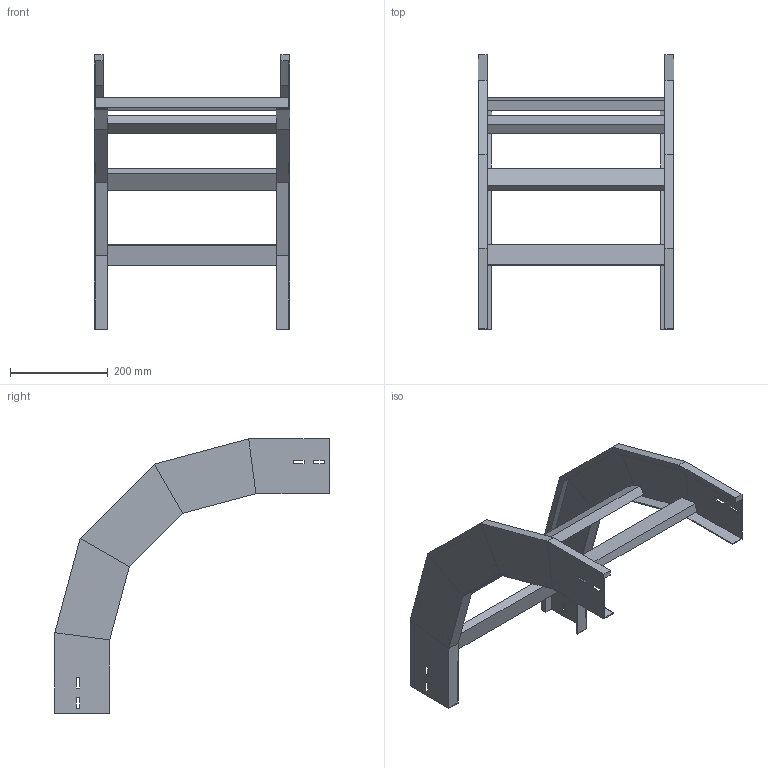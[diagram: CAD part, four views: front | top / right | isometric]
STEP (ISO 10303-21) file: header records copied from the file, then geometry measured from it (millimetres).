
FILE_DESCRIPTION (( 'STEP AP214' ), '1' );
FILE_NAME ('A2_33B3J400.step', '2025-02-21T15:03:36', ( '' ), ( '' ), 'SwSTEP 2.0', 'SolidWorks 2023', '' );
FILE_SCHEMA (( 'AUTOMOTIVE_DESIGN' ));
Length unit declared in the file: millimetre
Products named in the file (3): LONGH.DISCESA_90°_H112.5_R300; TRAVERSINO_400; A2_33B3J400
Assembly tree (6 placements, depth 2):
  A2_33B3J400
    LONGH.DISCESA_90°_H112.5_R300  x2
    TRAVERSINO_400  x4
Bounding box: 400 x 561.94 x 561.94 mm (x, y, z)
Volume: 2101074 mm3; surface area: 726539.5 mm2
Topology: 6 solids, 6 shells, 140 faces, 320 edges, 192 vertices
Faces by surface type: plane 140
Entity records: 1872 total; most frequent: CARTESIAN_POINT 309, ORIENTED_EDGE 296, DIRECTION 294, VECTOR 148, EDGE_CURVE 148, LINE 148, VERTEX_POINT 88, AXIS2_PLACEMENT_3D 73
